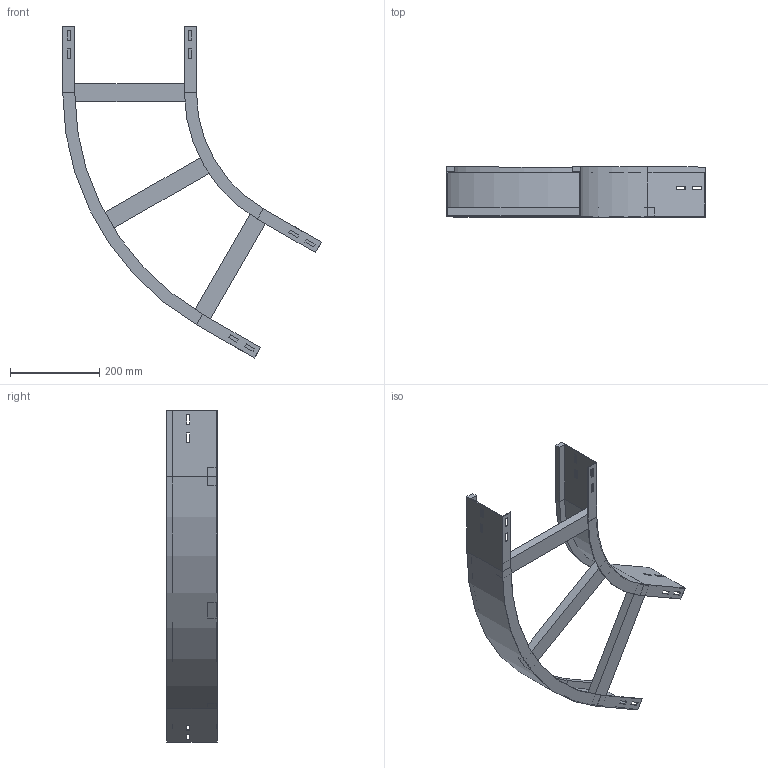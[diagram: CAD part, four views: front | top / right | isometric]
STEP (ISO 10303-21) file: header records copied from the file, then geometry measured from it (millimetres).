
FILE_DESCRIPTION (( 'STEP AP214' ), '1' );
FILE_NAME ('A2_13B3J300.step', '2025-02-21T15:19:25', ( '' ), ( '' ), 'SwSTEP 2.0', 'SolidWorks 2023', '' );
FILE_SCHEMA (( 'AUTOMOTIVE_DESIGN' ));
Length unit declared in the file: millimetre
Products named in the file (4): A2_LONGH.ESTERNO 60°_H112.5_R300+300; A2_13B3J300; A2_LONGH.INTERNO 60°_H112.5_R300; TRAVERSINO_300
Assembly tree (5 placements, depth 2):
  A2_13B3J300
    A2_LONGH.INTERNO 60°_H112.5_R300
    A2_LONGH.ESTERNO 60°_H112.5_R300+300
    TRAVERSINO_300  x3
Bounding box: 579.9 x 112.5 x 744.62 mm (x, y, z)
Volume: 1434689.1 mm3; surface area: 590814.6 mm2
Topology: 5 solids, 5 shells, 134 faces, 340 edges, 216 vertices
Faces by surface type: plane 126, cylinder 8
Entity records: 3821 total; most frequent: CARTESIAN_POINT 646, ORIENTED_EDGE 632, DIRECTION 592, EDGE_CURVE 316, VECTOR 300, LINE 300, VERTEX_POINT 200, EDGE_LOOP 154
